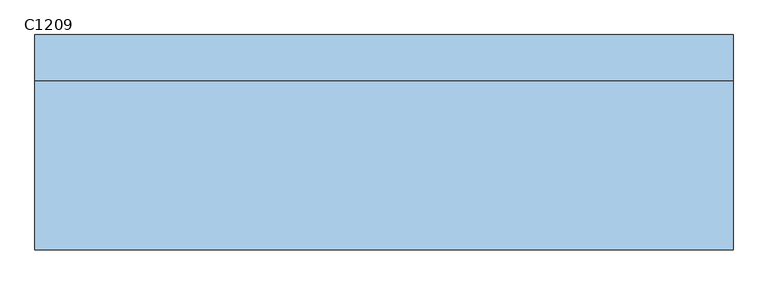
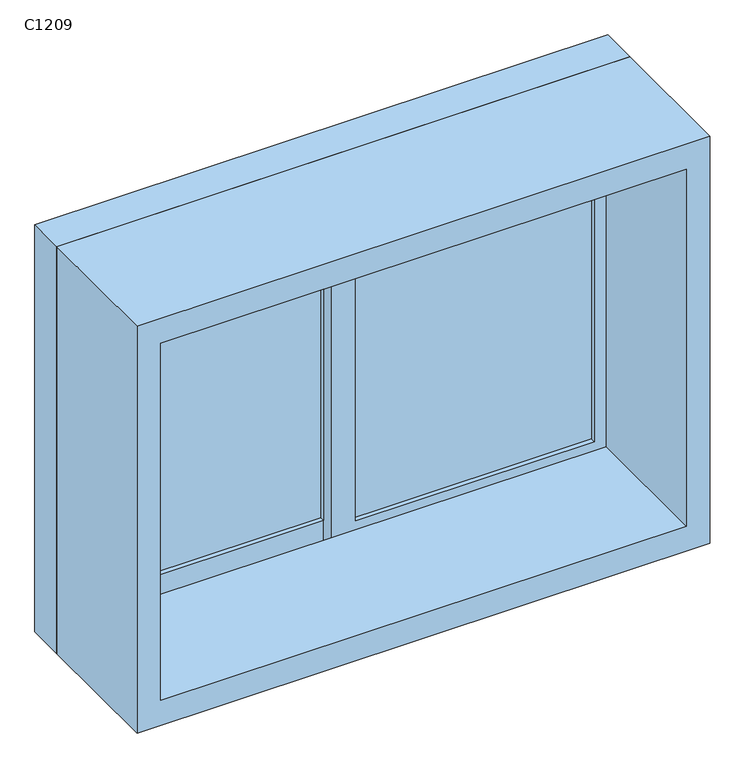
"""IFC4 building model written with IfcOpenShell, lengths in millimetres: window geometry, 推拉窗6 : C1209."""

from ifc_helpers import new_model, si_unit, frame, origin, place, context, project, spatial, polyline, outline, extrude, source, transform, mapped, element, save


def c1209_eea47d4b(model_context):
    return source(origin(), model_context, "Body", "SweptSolid", [
        extrude(outline(polyline([(-515.475, 88.1265625), (-15.475, 88.1265625), (-15.475, 78.1265625), (-515.475, 78.1265625), (-515.475, 88.1265625)])), frame((0.0, 0.0, 2275.0), z_axis=(0.0, 0.0, 1.0), x_axis=(1.0, 0.0, 0.0)), (0.0, 0.0, 1.0), 750.0),
        extrude(outline(polyline([(34.525, 58.1265625), (534.525, 58.1265625), (534.525, 48.1265625), (34.525, 48.1265625), (34.525, 58.1265625)])), frame((0.0, 0.0, 2275.0), z_axis=(0.0, 0.0, 1.0), x_axis=(1.0, 0.0, 0.0)), (0.0, 0.0, 1.0), 750.0),
        extrude(outline(polyline([(3100.0, -590.475), (2200.0, -590.475), (2200.0, 609.525), (3100.0, 609.525), (3100.0, -590.475)]), holes=[polyline([(3045.0, 559.525), (2255.0, 559.525), (2255.0, -540.475), (3045.0, -540.475), (3045.0, 559.525)])]), frame((0.0, -251.8734375, 0.0), z_axis=(0.0, 1.0, 0.0), x_axis=(0.0, 0.0, 1.0)), (0.0, 0.0, 1.0), 290.0),
        extrude(outline(polyline([(2225.0, 34.525), (3075.0, 34.525), (3075.0, -565.475), (2225.0, -565.475), (2225.0, 34.525)]), holes=[polyline([(2275.0, -15.475), (2275.0, -515.475), (3025.0, -515.475), (3025.0, -15.475), (2275.0, -15.475)])]), frame((0.0, 68.1265625, 0.0), z_axis=(0.0, 1.0, 0.0), x_axis=(0.0, 0.0, 1.0)), (0.0, 0.0, 1.0), 30.0),
        extrude(outline(polyline([(3075.0, -15.475), (2225.0, -15.475), (2225.0, 584.525), (3075.0, 584.525), (3075.0, -15.475)]), holes=[polyline([(3025.0, 34.525), (3025.0, 534.525), (2275.0, 534.525), (2275.0, 34.525), (3025.0, 34.525)])]), frame((0.0, 38.1265625, 0.0), z_axis=(0.0, 1.0, 0.0), x_axis=(0.0, 0.0, 1.0)), (0.0, 0.0, 1.0), 30.0),
        extrude(outline(polyline([(3100.0, -590.475), (2200.0, -590.475), (2200.0, 609.525), (3100.0, 609.525), (3100.0, -590.475)]), holes=[polyline([(2225.0, -565.475), (3075.0, -565.475), (3075.0, 584.525), (2225.0, 584.525), (2225.0, -565.475)])]), frame((0.0, 38.1265625, 0.0), z_axis=(0.0, 1.0, 0.0), x_axis=(0.0, 0.0, 1.0)), (0.0, 0.0, 1.0), 80.0),
    ])


if __name__ == "__main__":
    model = new_model("IFC4")
    model_context = context("Model", 3, world=origin())
    ifc_project = project(units=[si_unit("LENGTHUNIT", "METRE", prefix="MILLI")], contexts=[model_context])
    site = spatial("IfcSite", under=ifc_project)
    building = spatial("IfcBuilding", under=site)
    placement = place(None, origin())
    c1209_shape = c1209_eea47d4b(model_context)
    element("IfcWindow", 1, ObjectType="推拉窗6 : C1209", at=placement, inside=building, context=model_context, shape_type="MappedRepresentation", body=[
        mapped(c1209_shape, transform((0.0, 0.0, 0.0), x_axis=(1.0, 0.0, 0.0), y_axis=(0.0, 1.0, 0.0), z_axis=(0.0, 0.0, 1.0))),
    ])
    save(model, "model.ifc")
